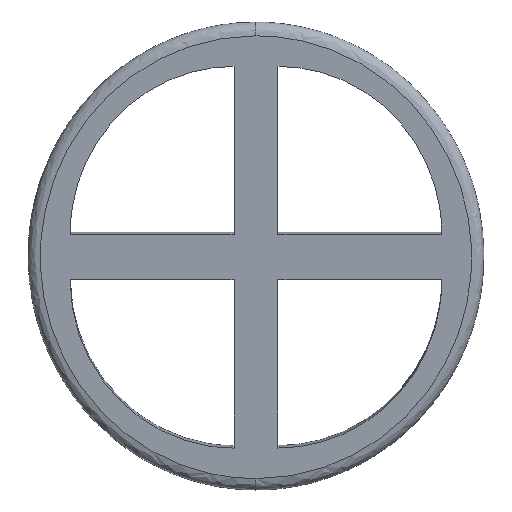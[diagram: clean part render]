
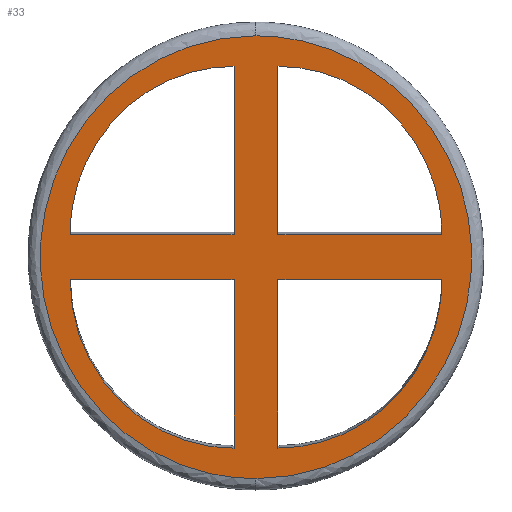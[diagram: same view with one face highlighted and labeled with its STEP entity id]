
A CAD part, front view. The second image highlights one B-rep face of the part: STEP entity #33.
In plain terms, the highlighted planar face has unit normal (-0.001, -0.994, -0.107).
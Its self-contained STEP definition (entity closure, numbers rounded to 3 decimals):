
#24=FACE_BOUND('',#70,.T.);
#25=FACE_BOUND('',#71,.T.);
#26=FACE_BOUND('',#72,.T.);
#27=FACE_BOUND('',#73,.T.);
#33=ADVANCED_FACE('',(#51,#24,#25,#26,#27),#308,.T.);
#51=FACE_OUTER_BOUND('',#69,.T.);
#69=EDGE_LOOP('',(#98,#99));
#70=EDGE_LOOP('',(#100,#101,#102));
#71=EDGE_LOOP('',(#103,#104,#105));
#72=EDGE_LOOP('',(#106,#107,#108));
#73=EDGE_LOOP('',(#109,#110,#111));
#98=ORIENTED_EDGE('',*,*,#197,.T.);
#99=ORIENTED_EDGE('',*,*,#231,.T.);
#100=ORIENTED_EDGE('',*,*,#204,.F.);
#101=ORIENTED_EDGE('',*,*,#189,.F.);
#102=ORIENTED_EDGE('',*,*,#188,.F.);
#103=ORIENTED_EDGE('',*,*,#190,.F.);
#104=ORIENTED_EDGE('',*,*,#208,.F.);
#105=ORIENTED_EDGE('',*,*,#191,.F.);
#106=ORIENTED_EDGE('',*,*,#192,.F.);
#107=ORIENTED_EDGE('',*,*,#215,.F.);
#108=ORIENTED_EDGE('',*,*,#193,.F.);
#109=ORIENTED_EDGE('',*,*,#225,.T.);
#110=ORIENTED_EDGE('',*,*,#194,.T.);
#111=ORIENTED_EDGE('',*,*,#195,.T.);
#188=EDGE_CURVE('',#279,#280,#232,.T.);
#189=EDGE_CURVE('',#280,#281,#233,.T.);
#190=EDGE_CURVE('',#283,#284,#234,.T.);
#191=EDGE_CURVE('',#284,#282,#235,.T.);
#192=EDGE_CURVE('',#286,#287,#236,.T.);
#193=EDGE_CURVE('',#287,#285,#237,.T.);
#194=EDGE_CURVE('',#288,#289,#238,.T.);
#195=EDGE_CURVE('',#289,#290,#239,.T.);
#197=EDGE_CURVE('',#303,#307,#259,.T.);
#204=EDGE_CURVE('',#281,#279,#261,.T.);
#208=EDGE_CURVE('',#282,#283,#265,.T.);
#215=EDGE_CURVE('',#285,#286,#269,.T.);
#225=EDGE_CURVE('',#290,#288,#271,.T.);
#231=EDGE_CURVE('',#307,#303,#277,.T.);
#232=B_SPLINE_CURVE_WITH_KNOTS('',1,(#1213,#1214),.UNSPECIFIED.,.F.,.F.,
(2,2),(6.283,6.783),.UNSPECIFIED.);
#233=B_SPLINE_CURVE_WITH_KNOTS('',1,(#1215,#1216),.UNSPECIFIED.,.F.,.F.,
(2,2),(6.783,7.783),.UNSPECIFIED.);
#234=B_SPLINE_CURVE_WITH_KNOTS('',1,(#1217,#1218),.UNSPECIFIED.,.F.,.F.,
(2,2),(5.142,6.142),.UNSPECIFIED.);
#235=B_SPLINE_CURVE_WITH_KNOTS('',1,(#1219,#1220),.UNSPECIFIED.,.F.,.F.,
(2,2),(6.142,6.642),.UNSPECIFIED.);
#236=B_SPLINE_CURVE_WITH_KNOTS('',1,(#1221,#1222),.UNSPECIFIED.,.F.,.F.,
(2,2),(6.142,7.142),.UNSPECIFIED.);
#237=B_SPLINE_CURVE_WITH_KNOTS('',1,(#1223,#1224),.UNSPECIFIED.,.F.,.F.,
(2,2),(7.142,7.642),.UNSPECIFIED.);
#238=B_SPLINE_CURVE_WITH_KNOTS('',1,(#1225,#1226),.UNSPECIFIED.,.F.,.F.,
(2,2),(0.,1.),.UNSPECIFIED.);
#239=B_SPLINE_CURVE_WITH_KNOTS('',1,(#1227,#1228),.UNSPECIFIED.,.F.,.F.,
(2,2),(1.,1.5),.UNSPECIFIED.);
#259=(
BOUNDED_CURVE()
B_SPLINE_CURVE(2,(#1234,#1235,#1236,#1237,#1238),.UNSPECIFIED.,.F.,.F.)
B_SPLINE_CURVE_WITH_KNOTS((3,2,3),(0.,1.571,3.142),
 .UNSPECIFIED.)
CURVE()
GEOMETRIC_REPRESENTATION_ITEM()
RATIONAL_B_SPLINE_CURVE((1.,0.707,1.,0.707,1.))
REPRESENTATION_ITEM('')
);
#261=(
BOUNDED_CURVE()
B_SPLINE_CURVE(2,(#1252,#1253,#1254),.UNSPECIFIED.,.F.,.F.)
B_SPLINE_CURVE_WITH_KNOTS((3,3),(7.783,9.354),
 .UNSPECIFIED.)
CURVE()
GEOMETRIC_REPRESENTATION_ITEM()
RATIONAL_B_SPLINE_CURVE((1.,0.707,1.))
REPRESENTATION_ITEM('')
);
#265=(
BOUNDED_CURVE()
B_SPLINE_CURVE(2,(#1262,#1263,#1264),.UNSPECIFIED.,.F.,.F.)
B_SPLINE_CURVE_WITH_KNOTS((3,3),(3.571,5.142),
 .UNSPECIFIED.)
CURVE()
GEOMETRIC_REPRESENTATION_ITEM()
RATIONAL_B_SPLINE_CURVE((1.,0.707,1.))
REPRESENTATION_ITEM('')
);
#269=(
BOUNDED_CURVE()
B_SPLINE_CURVE(2,(#1278,#1279,#1280),.UNSPECIFIED.,.F.,.F.)
B_SPLINE_CURVE_WITH_KNOTS((3,3),(4.571,6.142),
 .UNSPECIFIED.)
CURVE()
GEOMETRIC_REPRESENTATION_ITEM()
RATIONAL_B_SPLINE_CURVE((1.,0.707,1.))
REPRESENTATION_ITEM('')
);
#271=(
BOUNDED_CURVE()
B_SPLINE_CURVE(2,(#1300,#1301,#1302),.UNSPECIFIED.,.F.,.F.)
B_SPLINE_CURVE_WITH_KNOTS((3,3),(1.5,3.071),.UNSPECIFIED.)
CURVE()
GEOMETRIC_REPRESENTATION_ITEM()
RATIONAL_B_SPLINE_CURVE((1.,0.707,1.))
REPRESENTATION_ITEM('')
);
#277=(
BOUNDED_CURVE()
B_SPLINE_CURVE(2,(#1371,#1372,#1373,#1374,#1375),.UNSPECIFIED.,.F.,.F.)
B_SPLINE_CURVE_WITH_KNOTS((3,2,3),(3.142,4.712,6.283),
 .UNSPECIFIED.)
CURVE()
GEOMETRIC_REPRESENTATION_ITEM()
RATIONAL_B_SPLINE_CURVE((1.,0.707,1.,0.707,1.))
REPRESENTATION_ITEM('')
);
#279=VERTEX_POINT('',#1127);
#280=VERTEX_POINT('',#1128);
#281=VERTEX_POINT('',#1129);
#282=VERTEX_POINT('',#1130);
#283=VERTEX_POINT('',#1131);
#284=VERTEX_POINT('',#1132);
#285=VERTEX_POINT('',#1133);
#286=VERTEX_POINT('',#1134);
#287=VERTEX_POINT('',#1135);
#288=VERTEX_POINT('',#1136);
#289=VERTEX_POINT('',#1137);
#290=VERTEX_POINT('',#1138);
#303=VERTEX_POINT('',#1151);
#307=VERTEX_POINT('',#1155);
#308=PLANE('',#346);
#346=AXIS2_PLACEMENT_3D('',#552,#359,$);
#359=DIRECTION('',(-0.001,-0.994,-0.107));
#552=CARTESIAN_POINT('',(-28.659,-91.395,-20.775));
#1127=CARTESIAN_POINT('',(-2.95,-91.916,-16.233));
#1128=CARTESIAN_POINT('',(-2.95,-94.271,5.612));
#1129=CARTESIAN_POINT('',(-24.231,-94.246,5.614));
#1130=CARTESIAN_POINT('',(-2.95,-97.258,33.312));
#1131=CARTESIAN_POINT('',(-24.231,-94.877,11.47));
#1132=CARTESIAN_POINT('',(-2.95,-94.903,11.467));
#1133=CARTESIAN_POINT('',(2.754,-91.923,-16.234));
#1134=CARTESIAN_POINT('',(24.035,-94.304,5.608));
#1135=CARTESIAN_POINT('',(2.754,-94.278,5.611));
#1136=CARTESIAN_POINT('',(24.035,-94.935,11.464));
#1137=CARTESIAN_POINT('',(2.754,-94.909,11.466));
#1138=CARTESIAN_POINT('',(2.754,-97.265,33.311));
#1151=CARTESIAN_POINT('',(-0.098,-91.491,-20.204));
#1155=CARTESIAN_POINT('',(-0.098,-97.689,37.282));
#1213=CARTESIAN_POINT('',(-2.95,-91.916,-16.233));
#1214=CARTESIAN_POINT('',(-2.95,-94.271,5.612));
#1215=CARTESIAN_POINT('',(-2.95,-94.271,5.612));
#1216=CARTESIAN_POINT('',(-24.231,-94.246,5.614));
#1217=CARTESIAN_POINT('',(-24.231,-94.877,11.47));
#1218=CARTESIAN_POINT('',(-2.95,-94.903,11.467));
#1219=CARTESIAN_POINT('',(-2.95,-94.903,11.467));
#1220=CARTESIAN_POINT('',(-2.95,-97.258,33.312));
#1221=CARTESIAN_POINT('',(24.035,-94.304,5.608));
#1222=CARTESIAN_POINT('',(2.754,-94.278,5.611));
#1223=CARTESIAN_POINT('',(2.754,-94.278,5.611));
#1224=CARTESIAN_POINT('',(2.754,-91.923,-16.234));
#1225=CARTESIAN_POINT('',(24.035,-94.935,11.464));
#1226=CARTESIAN_POINT('',(2.754,-94.909,11.466));
#1227=CARTESIAN_POINT('',(2.754,-94.909,11.466));
#1228=CARTESIAN_POINT('',(2.754,-97.265,33.311));
#1234=CARTESIAN_POINT('',(-0.098,-91.491,-20.204));
#1235=CARTESIAN_POINT('',(27.903,-91.525,-20.208));
#1236=CARTESIAN_POINT('',(27.903,-94.624,8.535));
#1237=CARTESIAN_POINT('',(27.903,-97.723,37.278));
#1238=CARTESIAN_POINT('',(-0.098,-97.689,37.282));
#1252=CARTESIAN_POINT('',(-24.231,-94.246,5.614));
#1253=CARTESIAN_POINT('',(-24.231,-91.89,-16.23));
#1254=CARTESIAN_POINT('',(-2.95,-91.916,-16.233));
#1262=CARTESIAN_POINT('',(-2.95,-97.258,33.312));
#1263=CARTESIAN_POINT('',(-24.231,-97.232,33.314));
#1264=CARTESIAN_POINT('',(-24.231,-94.877,11.47));
#1278=CARTESIAN_POINT('',(2.754,-91.923,-16.234));
#1279=CARTESIAN_POINT('',(24.035,-91.949,-16.237));
#1280=CARTESIAN_POINT('',(24.035,-94.304,5.608));
#1300=CARTESIAN_POINT('',(2.754,-97.265,33.311));
#1301=CARTESIAN_POINT('',(24.035,-97.29,33.308));
#1302=CARTESIAN_POINT('',(24.035,-94.935,11.464));
#1371=CARTESIAN_POINT('',(-0.098,-97.689,37.282));
#1372=CARTESIAN_POINT('',(-28.099,-97.656,37.286));
#1373=CARTESIAN_POINT('',(-28.099,-94.557,8.543));
#1374=CARTESIAN_POINT('',(-28.099,-91.458,-20.2));
#1375=CARTESIAN_POINT('',(-0.098,-91.491,-20.204));
